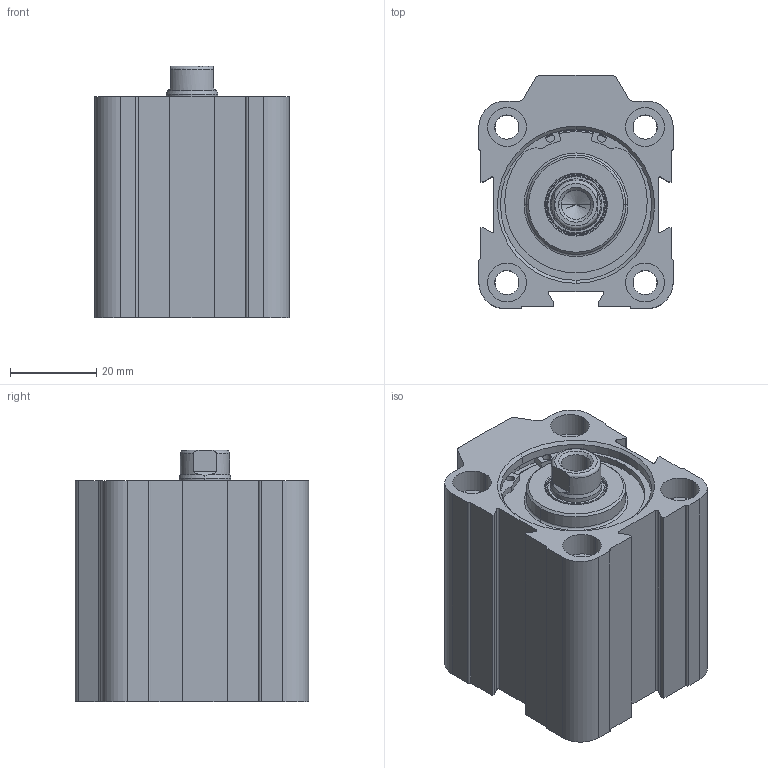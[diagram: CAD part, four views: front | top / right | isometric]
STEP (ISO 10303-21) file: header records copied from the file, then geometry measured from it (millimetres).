
FILE_DESCRIPTION (( 'STEP AP214' ), '1' );
FILE_NAME ('D11M20320005.STEP', '2021-11-02T16:31:19', ( '' ), ( '' ), 'SwSTEP 2.0', 'SolidWorks 2016', '' );
FILE_SCHEMA (( 'AUTOMOTIVE_DESIGN' ));
Length unit declared in the file: millimetre
Products named in the file (6): TP Ø32 Corsa Breve WEB; Pistone Ø32 corsa breve WEB; 000.503.7_22.032.005; D11M20320005; TA Ø32 Corsa Breve WEB; 22.D01.000_22.D01.005
Assembly tree (5 placements, depth 2):
  D11M20320005
    000.503.7_22.032.005
    22.D01.000_22.D01.005
    TA Ø32 Corsa Breve WEB
    TP Ø32 Corsa Breve WEB
    Pistone Ø32 corsa breve WEB
Bounding box: 45 x 54 x 58.2 mm (x, y, z)
Volume: 89843.8 mm3; surface area: 38837.5 mm2
Topology: 8 solids, 8 shells, 326 faces, 755 edges, 473 vertices
Faces by surface type: cylinder 149, plane 91, cone 66, torus 20
Entity records: 11308 total; most frequent: DIRECTION 1801, CARTESIAN_POINT 1704, ORIENTED_EDGE 1506, EDGE_CURVE 753, AXIS2_PLACEMENT_3D 730, VERTEX_POINT 473, CIRCLE 396, EDGE_LOOP 384
